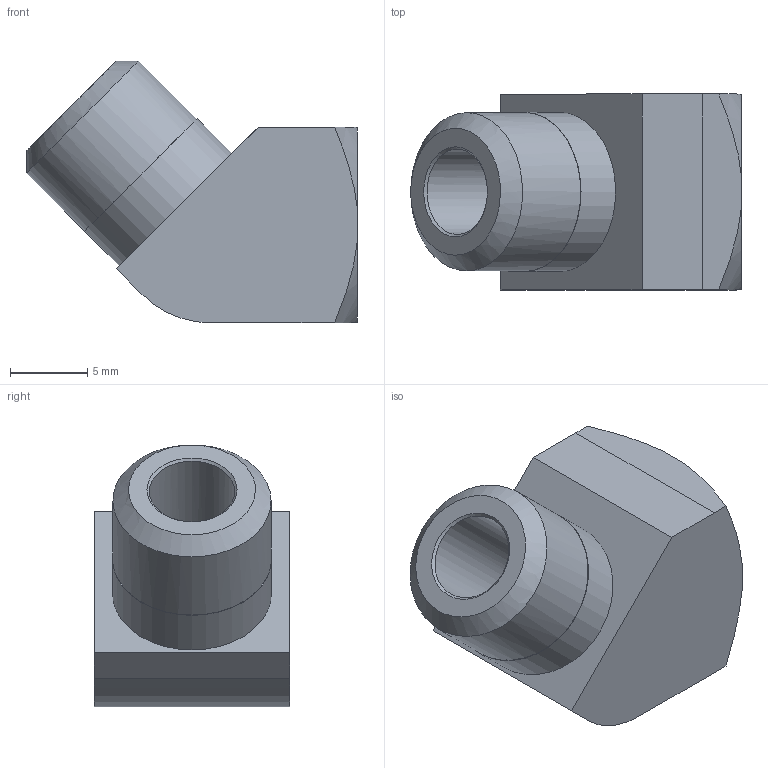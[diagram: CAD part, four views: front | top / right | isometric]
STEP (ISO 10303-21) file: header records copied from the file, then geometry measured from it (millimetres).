
FILE_DESCRIPTION(/* description */ (''),/* implementation_level */ '2;1');
FILE_NAME(/* name */ 'C:/Users/drich/Desktop/AL-18 v2.step',/* time_stamp */ '2020-02-09T11:04:33-06:00',/* author */ (''),/* organization */ (''),/* preprocessor_version */ 'ST-DEVELOPER v18',/* originating_system */ 'Autodesk Translation Framework v8.12.0.6',/* authorisation */ '');
FILE_SCHEMA (('AUTOMOTIVE_DESIGN { 1 0 10303 214 3 1 1 }'));
Length unit declared in the file: inch
Products named in the file (1): AL-18
Bounding box: 21.44 x 12.7 x 16.98 mm (x, y, z)
Volume: 1742.9 mm3; surface area: 1588.2 mm2
Topology: 1 solids, 1 shells, 27 faces, 67 edges, 45 vertices
Faces by surface type: plane 12, cone 8, cylinder 6, bspline 1
Full cylindrical faces by diameter (mm): 5.537 x1, 8.712 x1, 8.738 x1, 10.262 x1, 10.312 x1
Entity records: 934 total; most frequent: CARTESIAN_POINT 253, ORIENTED_EDGE 134, DIRECTION 131, EDGE_CURVE 67, AXIS2_PLACEMENT_3D 50, VERTEX_POINT 45, EDGE_LOOP 32, LINE 31
